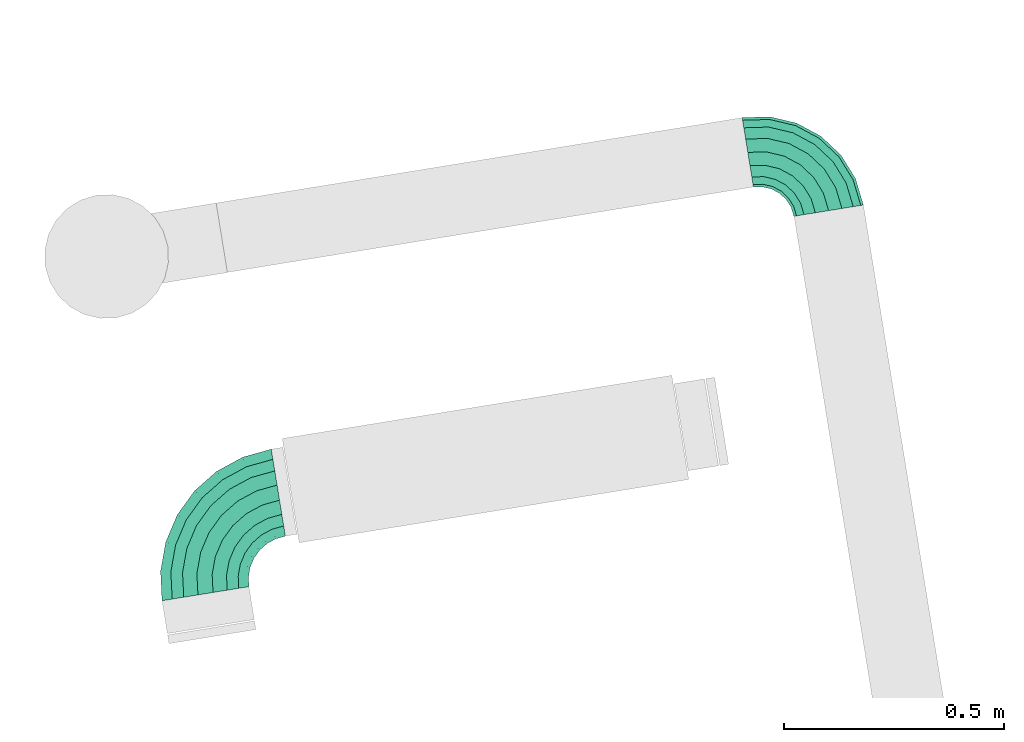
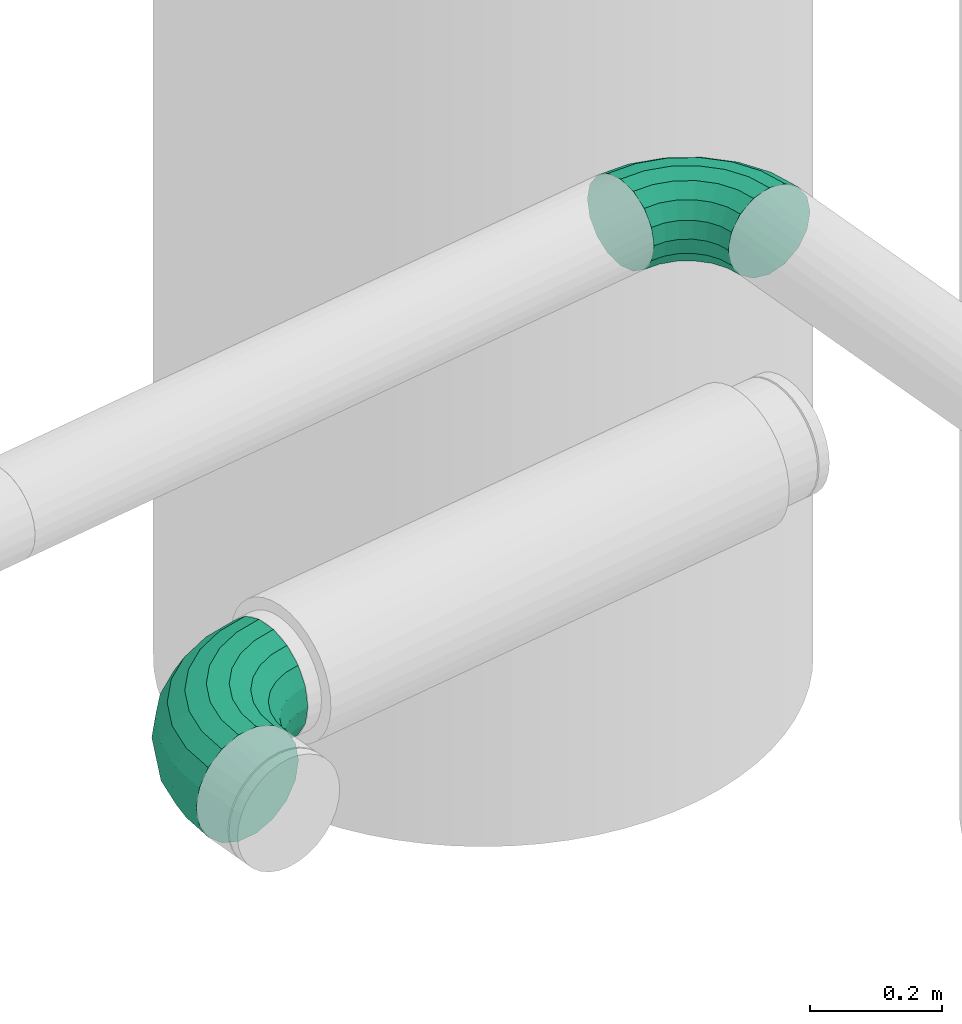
# One storey, part 29 of 39: 2 flow fittings.
"""IFC2X3 building model written with IfcOpenShell, lengths in millimetres."""

from ifc_helpers import new_model, entity, si_unit, converted_unit, derived_unit, direction, frame, origin, origin_with_axes, place, context, subcontext, project, spatial, faceted_brep, source, transform, mapped, material, type_object, element, save


model = new_model("IFC2X3")

# Units and contexts
model_context = context("Model", 3, precision=0.01, world=origin(), true_north=direction((6.12323399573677e-17, 1.0)))
plan_context = context("Plan", 3, precision=1e-05, world=origin_with_axes())
body_context = subcontext(model_context, "Body", "Model", "MODEL_VIEW")
ifc_project = project(units=[converted_unit("PLANEANGLEUNIT", "DEGREE", entity("IfcPositiveLengthMeasure", 0.0174532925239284), si_unit("PLANEANGLEUNIT", "RADIAN"), dimensions=[0, 0, 0, 0, 0, 0, 0]), si_unit("AREAUNIT", "SQUARE_METRE"), si_unit("LENGTHUNIT", "METRE", prefix="MILLI"), si_unit("MASSUNIT", "GRAM", prefix="KILO"), si_unit("POWERUNIT", "WATT"), si_unit("PRESSUREUNIT", "PASCAL", prefix="KILO"), si_unit("FORCEUNIT", "NEWTON", prefix="KILO"), si_unit("ELECTRICVOLTAGEUNIT", "VOLT"), si_unit("ELECTRICCURRENTUNIT", "AMPERE"), si_unit("THERMODYNAMICTEMPERATUREUNIT", "DEGREE_CELSIUS"), si_unit("TIMEUNIT", "SECOND"), si_unit("VOLUMEUNIT", "CUBIC_METRE"), derived_unit("LINEARVELOCITYUNIT", [(si_unit("LENGTHUNIT", "METRE"), 1), (si_unit("TIMEUNIT", "SECOND"), -1)]), derived_unit("VOLUMETRICFLOWRATEUNIT", [(si_unit("VOLUMEUNIT", "CUBIC_METRE"), 1), (si_unit("TIMEUNIT", "SECOND"), -1)]), derived_unit("THERMALTRANSMITTANCEUNIT", [(si_unit("POWERUNIT", "WATT"), 1), (si_unit("THERMODYNAMICTEMPERATUREUNIT", "KELVIN"), -1), (si_unit("AREAUNIT", "SQUARE_METRE"), -1)]), derived_unit("SOUNDPRESSUREUNIT", [(si_unit("PRESSUREUNIT", "PASCAL"), 1)])], contexts=[model_context, plan_context])

# Site, building, storey
site_placement = place(None, frame((-0.00071070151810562, 0.00438415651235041, 0.0), z_axis=(0.0, 0.0, 1.0), x_axis=(-0.160236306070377, 0.987078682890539, 0.0)))
site = spatial("IfcSite", under=ifc_project, at=site_placement, Name="Default", CompositionType="ELEMENT")
building_placement = place(site_placement, origin_with_axes())
building = spatial("IfcBuilding", under=site, at=building_placement, CompositionType="ELEMENT")
storey_placement = place(building_placement, frame((0.0, 0.0, 50999.9999999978), z_axis=(0.0, 0.0, 1.0), x_axis=(1.0, 0.0, 0.0)))
storey = spatial("IfcBuildingStorey", under=building, at=storey_placement, Name="Nivå D", CompositionType="ELEMENT", Elevation=50999.9999999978)

# Flow fittings
ifc_material = material(Name="<Unnamed>")
duct_fitting_type_1 = type_object("IfcDuctFittingType", Name="magicirc_elbow_full_radius_1:magicirc_elbow_full_radius_001", PredefinedType="NOTDEFINED", material=ifc_material)
shared_shape_1 = source(origin(), body_context, "Body", "Brep", [
    faceted_brep([(-97.8834291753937, -71.8221983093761, 0.0), (-99.4595433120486, -65.9400602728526, 30.6146745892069), (-160.0, -73.910362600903, 30.6146745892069), (-160.0, -80.0, 0.0), (-103.947936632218, -49.1891483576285, 56.5685424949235), (-160.0, -56.568542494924, 56.5685424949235), (-110.665291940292, -24.119637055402, 73.9103626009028), (-160.0, -30.6146745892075, 73.9103626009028), (-118.588952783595, 5.45186779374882, 80.0), (-160.0, 0.0, 80.0), (-126.512613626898, 35.0233726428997, 73.910362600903), (-160.0, 30.6146745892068, 73.910362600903), (-133.229968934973, 60.0928839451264, 56.568542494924), (-160.0, 56.5685424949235, 56.568542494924), (-137.718362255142, 76.8437958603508, 30.6146745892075), (-160.0, 73.9103626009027, 30.6146745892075), (-139.294476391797, 82.7259338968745, 0.0), (-160.0, 80.0, 0.0), (-137.718362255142, 76.8437958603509, -30.6146745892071), (-160.0, 73.9103626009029, -30.6146745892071), (-133.229968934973, 60.0928839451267, -56.5685424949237), (-160.0, 56.5685424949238, -56.5685424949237), (-126.512613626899, 35.0233726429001, -73.9103626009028), (-160.0, 30.6146745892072, -73.9103626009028), (-118.588952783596, 5.45186779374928, -80.0), (-160.0, 0.0, -80.0), (-110.665291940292, -24.1196370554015, -73.9103626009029), (-160.0, -30.614674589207, -73.9103626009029), (-103.947936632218, -49.1891483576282, -56.5685424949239), (-160.0, -56.5685424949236, -56.5685424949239), (-99.4595433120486, -65.9400602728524, -30.6146745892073), (-160.0, -73.9103626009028, -30.6146745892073), (-40.0, -47.8460969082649, 0.0), (-43.0448186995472, -42.5723162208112, 30.6146745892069), (-51.7157287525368, -27.5538594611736, 56.5685424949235), (-64.6926627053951, -5.0771505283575, 73.9103626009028), (-80.0, 21.4359353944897, 80.0), (-95.3073372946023, 47.949021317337, 73.910362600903), (-108.284271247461, 70.4257302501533, 56.568542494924), (-116.95518130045, 85.444187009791, 30.6146745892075), (-120.0, 90.717967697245, 0.0), (-116.95518130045, 85.4441870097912, -30.6146745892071), (-108.284271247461, 70.4257302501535, -56.5685424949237), (-95.3073372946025, 47.9490213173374, -73.9103626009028), (-80.0, 21.4359353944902, -80.0), (-64.6926627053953, -5.07715052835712, -73.9103626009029), (-51.7157287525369, -27.5538594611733, -56.5685424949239), (-43.0448186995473, -42.572316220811, -30.6146745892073), (9.70562748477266, -9.70562748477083, 0.0), (5.39960358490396, -5.39960358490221, 30.6146745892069), (-6.86291501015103, 6.86291501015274, 56.5685424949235), (-25.2150710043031, 25.2150710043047, 73.9103626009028), (-46.862915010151, 46.8629150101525, 80.0), (-68.5107590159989, 68.5107590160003, 73.910362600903), (-86.8629150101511, 86.8629150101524, 56.568542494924), (-99.1254336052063, 99.1254336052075, 30.6146745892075), (-103.431457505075, 103.431457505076, 0.0), (-99.1254336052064, 99.1254336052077, -30.6146745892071), (-86.8629150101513, 86.8629150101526, -56.5685424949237), (-68.5107590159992, 68.5107590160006, -73.9103626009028), (-46.8629150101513, 46.8629150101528, -80.0), (-25.2150710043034, 25.215071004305, -73.9103626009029), (-6.86291501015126, 6.86291501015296, -56.5685424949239), (5.39960358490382, -5.39960358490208, -30.6146745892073), (47.8460969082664, 40.0, 0.0), (42.5723162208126, 43.0448186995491, 30.6146745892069), (27.553859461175, 51.7157287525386, 56.5685424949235), (5.07715052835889, 64.6926627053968, 73.9103626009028), (-21.4359353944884, 80.0, 80.0), (-47.9490213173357, 95.3073372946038, 73.910362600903), (-70.4257302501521, 108.284271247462, 56.568542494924), (-85.4441870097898, 116.955181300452, 30.6146745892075), (-90.7179676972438, 120.0, 0.0), (-85.44418700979, 116.955181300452, -30.6146745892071), (-70.4257302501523, 108.284271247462, -56.5685424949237), (-47.9490213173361, 95.307337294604, -73.9103626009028), (-21.4359353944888, 80.0, -80.0), (5.07715052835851, 64.692662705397, -73.9103626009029), (27.5538594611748, 51.7157287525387, -56.5685424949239), (42.5723162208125, 43.0448186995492, -30.6146745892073), (71.8221983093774, 97.8834291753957, 0.0), (65.9400602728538, 99.4595433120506, 30.6146745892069), (49.1891483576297, 103.94793663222, 56.5685424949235), (24.1196370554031, 110.665291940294, 73.9103626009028), (-5.45186779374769, 118.588952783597, 80.0), (-35.0233726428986, 126.5126136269, 73.910362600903), (-60.0928839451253, 133.229968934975, 56.568542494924), (-76.8437958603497, 137.718362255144, 30.6146745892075), (-82.7259338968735, 139.294476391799, 0.0), (-76.8437958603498, 137.718362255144, -30.6146745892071), (-60.0928839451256, 133.229968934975, -56.5685424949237), (-35.023372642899, 126.5126136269, -73.9103626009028), (-5.45186779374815, 118.588952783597, -80.0), (24.1196370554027, 110.665291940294, -73.9103626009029), (49.1891483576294, 103.94793663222, -56.5685424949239), (65.9400602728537, 99.4595433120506, -30.6146745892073), (80.0, 160.0, 0.0), (73.9103626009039, 160.0, 30.6146745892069), (56.5685424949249, 160.0, 56.5685424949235), (30.6146745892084, 160.0, 73.9103626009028), (0.0, 160.0, 80.0), (-30.6146745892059, 160.0, 73.910362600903), (-56.5685424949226, 160.0, 56.568542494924), (-73.9103626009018, 160.0, 30.6146745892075), (-80.0, 160.0, 0.0), (-73.910362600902, 160.0, -30.6146745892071), (-56.5685424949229, 160.0, -56.5685424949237), (-30.6146745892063, 160.0, -73.9103626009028), (0.0, 160.0, -80.0), (30.6146745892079, 160.0, -73.9103626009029), (56.5685424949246, 160.0, -56.5685424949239), (73.9103626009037, 160.0, -30.6146745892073)], [[[0, 1, 2, 3]], [[1, 4, 5, 2]], [[4, 6, 7, 5]], [[6, 8, 9, 7]], [[8, 10, 11, 9]], [[10, 12, 13, 11]], [[12, 14, 15, 13]], [[14, 16, 17, 15]], [[16, 18, 19, 17]], [[18, 20, 21, 19]], [[20, 22, 23, 21]], [[22, 24, 25, 23]], [[24, 26, 27, 25]], [[26, 28, 29, 27]], [[28, 30, 31, 29]], [[30, 0, 3, 31]], [[32, 33, 1, 0]], [[33, 34, 4, 1]], [[34, 35, 6, 4]], [[35, 36, 8, 6]], [[36, 37, 10, 8]], [[37, 38, 12, 10]], [[38, 39, 14, 12]], [[39, 40, 16, 14]], [[40, 41, 18, 16]], [[41, 42, 20, 18]], [[42, 43, 22, 20]], [[43, 44, 24, 22]], [[44, 45, 26, 24]], [[45, 46, 28, 26]], [[46, 47, 30, 28]], [[47, 32, 0, 30]], [[48, 49, 33, 32]], [[49, 50, 34, 33]], [[50, 51, 35, 34]], [[51, 52, 36, 35]], [[52, 53, 37, 36]], [[53, 54, 38, 37]], [[54, 55, 39, 38]], [[55, 56, 40, 39]], [[56, 57, 41, 40]], [[57, 58, 42, 41]], [[58, 59, 43, 42]], [[59, 60, 44, 43]], [[60, 61, 45, 44]], [[61, 62, 46, 45]], [[62, 63, 47, 46]], [[63, 48, 32, 47]], [[64, 65, 49, 48]], [[65, 66, 50, 49]], [[66, 67, 51, 50]], [[67, 68, 52, 51]], [[68, 69, 53, 52]], [[69, 70, 54, 53]], [[70, 71, 55, 54]], [[71, 72, 56, 55]], [[72, 73, 57, 56]], [[73, 74, 58, 57]], [[74, 75, 59, 58]], [[75, 76, 60, 59]], [[76, 77, 61, 60]], [[77, 78, 62, 61]], [[78, 79, 63, 62]], [[79, 64, 48, 63]], [[80, 81, 65, 64]], [[81, 82, 66, 65]], [[82, 83, 67, 66]], [[83, 84, 68, 67]], [[84, 85, 69, 68]], [[85, 86, 70, 69]], [[86, 87, 71, 70]], [[87, 88, 72, 71]], [[88, 89, 73, 72]], [[89, 90, 74, 73]], [[90, 91, 75, 74]], [[91, 92, 76, 75]], [[92, 93, 77, 76]], [[93, 94, 78, 77]], [[94, 95, 79, 78]], [[95, 80, 64, 79]], [[96, 97, 81, 80]], [[97, 98, 82, 81]], [[98, 99, 83, 82]], [[99, 100, 84, 83]], [[100, 101, 85, 84]], [[101, 102, 86, 85]], [[102, 103, 87, 86]], [[103, 104, 88, 87]], [[104, 105, 89, 88]], [[105, 106, 90, 89]], [[106, 107, 91, 90]], [[107, 108, 92, 91]], [[108, 109, 93, 92]], [[109, 110, 94, 93]], [[110, 111, 95, 94]], [[111, 96, 80, 95]], [[3, 2, 5, 7, 9, 11, 13, 15, 17, 19, 21, 23, 25, 27, 29, 31]], [[111, 110, 109, 108, 107, 106, 105, 104, 103, 102, 101, 100, 99, 98, 97, 96]]]),
])
flow_fitting_1_placement = place(storey_placement, frame((776456.97928963, -593994.407161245, 3310.0), z_axis=(0.0, 0.0, 1.0), x_axis=(1.0, 0.0, 0.0)))
element("IfcFlowFitting", 1, at=flow_fitting_1_placement, inside=storey, type_object=duct_fitting_type_1, material=ifc_material, Name="magicirc_elbow_full_radius_1:magicirc_elbow_full_radius_001", ObjectType="magicirc_elbow_full_radius_1:magicirc_elbow_full_radius_001", context=body_context, shape_type="MappedRepresentation", body=[
    mapped(shared_shape_1, transform((0.0, 0.0, 0.0), scale=1.0)),
])
duct_fitting_type_2 = type_object("IfcDuctFittingType", Name="magicirc_elbow_full_radius_1:magicirc_elbow_full_radius_001", PredefinedType="NOTDEFINED", material=ifc_material)
shared_shape_2 = source(origin(), body_context, "Body", "Brep", [
    faceted_brep([(-133.243719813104, -92.4783736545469, 0.0), (-134.585685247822, -86.5988389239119, 34.2020143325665), (-200.0, -93.969262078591, 34.2020143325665), (-200.0, -100.0, 0.0), (-138.449720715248, -69.6693933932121, 64.2787609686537), (-200.0, -76.604444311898, 64.2787609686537), (-144.36976651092, -43.7319780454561, 86.6025403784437), (-200.0, -50.0, 86.6025403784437), (-151.63177774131, -11.9150279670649, 98.4807753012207), (-200.0, -17.3648177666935, 98.4807753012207), (-159.359848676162, 21.9438630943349, 98.4807753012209), (-200.0, 17.3648177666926, 98.4807753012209), (-166.621859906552, 53.7608131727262, 86.6025403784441), (-200.0, 50.0, 86.6025403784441), (-172.541905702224, 79.6982285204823, 64.2787609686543), (-200.0, 76.6044443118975, 64.2787609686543), (-176.40594116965, 96.6276740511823, 34.2020143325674), (-200.0, 93.9692620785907, 34.2020143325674), (-177.747906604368, 102.507208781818, 0.0), (-200.0, 100.0, 0.0), (-176.40594116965, 96.6276740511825, -34.2020143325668), (-200.0, 93.9692620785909, -34.2020143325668), (-172.541905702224, 79.6982285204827, -64.2787609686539), (-200.0, 76.6044443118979, -64.2787609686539), (-166.621859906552, 53.7608131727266, -86.6025403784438), (-200.0, 50.0, -86.6025403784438), (-159.359848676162, 21.9438630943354, -98.4807753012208), (-200.0, 17.3648177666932, -98.4807753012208), (-151.63177774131, -11.9150279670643, -98.4807753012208), (-200.0, -17.3648177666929, -98.4807753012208), (-144.36976651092, -43.7319780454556, -86.6025403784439), (-200.0, -50.0, -86.6025403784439), (-138.449720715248, -69.6693933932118, -64.2787609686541), (-200.0, -76.6044443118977, -64.2787609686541), (-134.585685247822, -86.5988389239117, -34.2020143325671), (-200.0, -93.9692620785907, -34.2020143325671), (-69.8348782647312, -70.2906603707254, 0.0), (-72.4515173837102, -64.8571532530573, 34.2020143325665), (-79.985829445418, -49.2119930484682, 64.2787609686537), (-91.5290652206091, -25.2422169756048, 86.6025403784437), (-105.688940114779, 4.16106621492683, 98.4807753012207), (-120.757564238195, 35.4513866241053, 98.4807753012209), (-134.917439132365, 64.854669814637, 86.6025403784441), (-146.460674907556, 88.8244458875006, 64.2787609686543), (-153.994986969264, 104.46960609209, 34.2020143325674), (-156.611626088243, 109.903113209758, 0.0), (-153.994986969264, 104.46960609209, -34.2020143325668), (-146.460674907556, 88.8244458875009, -64.2787609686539), (-134.917439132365, 64.8546698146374, -86.6025403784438), (-120.757564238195, 35.4513866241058, -98.4807753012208), (-105.688940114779, 4.16106621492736, -98.4807753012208), (-91.5290652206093, -25.2422169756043, -86.6025403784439), (-79.9858294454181, -49.2119930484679, -64.2787609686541), (-72.4515173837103, -64.8571532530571, -34.2020143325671), (-12.9530594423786, -34.5494447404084, 0.0), (-16.7131630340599, -29.834423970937, 34.2020143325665), (-27.5399498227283, -16.2580627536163, 64.2787609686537), (-44.1275495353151, 4.54212938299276, 86.6025403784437), (-64.4752528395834, 30.0573422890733, 98.4807753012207), (-86.1288264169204, 57.2100647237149, 98.4807753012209), (-106.476529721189, 82.7252776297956, 86.6025403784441), (-123.064129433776, 103.525469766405, 64.2787609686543), (-133.890916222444, 117.101830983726, 34.2020143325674), (-137.651019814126, 121.816851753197, 0.0), (-133.890916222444, 117.101830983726, -34.2020143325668), (-123.064129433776, 103.525469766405, -64.2787609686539), (-106.476529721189, 82.7252776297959, -86.6025403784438), (-86.1288264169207, 57.2100647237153, -98.4807753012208), (-64.4752528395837, 30.0573422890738, -98.4807753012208), (-44.1275495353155, 4.54212938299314, -86.6025403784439), (-27.5399498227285, -16.2580627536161, -64.2787609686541), (-16.71316303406, -29.8344239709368, -34.2020143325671), (34.5494447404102, 12.9530594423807, 0.0), (29.8344239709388, 16.7131630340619, 34.2020143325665), (16.2580627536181, 27.5399498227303, 64.2787609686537), (-4.54212938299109, 44.127549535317, 86.6025403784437), (-30.0573422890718, 64.4752528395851, 98.4807753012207), (-57.2100647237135, 86.128826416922, 98.4807753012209), (-82.7252776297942, 106.47652972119, 86.6025403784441), (-103.525469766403, 123.064129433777, 64.2787609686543), (-117.101830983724, 133.890916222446, 34.2020143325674), (-121.816851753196, 137.651019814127, 0.0), (-117.101830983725, 133.890916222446, -34.2020143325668), (-103.525469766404, 123.064129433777, -64.2787609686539), (-82.7252776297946, 106.47652972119, -86.6025403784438), (-57.2100647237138, 86.1288264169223, -98.4807753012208), (-30.0573422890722, 64.4752528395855, -98.4807753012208), (-4.54212938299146, 44.1275495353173, -86.6025403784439), (16.2580627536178, 27.5399498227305, -64.2787609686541), (29.8344239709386, 16.7131630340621, -34.2020143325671), (70.2906603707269, 69.8348782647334, 0.0), (64.8571532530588, 72.4515173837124, 34.2020143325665), (49.2119930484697, 79.9858294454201, 64.2787609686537), (25.2422169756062, 91.5290652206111, 86.6025403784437), (-4.16106621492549, 105.688940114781, 98.4807753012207), (-35.4513866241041, 120.757564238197, 98.4807753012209), (-64.8546698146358, 134.917439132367, 86.6025403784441), (-88.8244458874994, 146.460674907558, 64.2787609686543), (-104.469606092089, 153.994986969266, 34.2020143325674), (-109.903113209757, 156.611626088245, 0.0), (-104.469606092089, 153.994986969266, -34.2020143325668), (-88.8244458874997, 146.460674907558, -64.2787609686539), (-64.8546698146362, 134.917439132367, -86.6025403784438), (-35.4513866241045, 120.757564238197, -98.4807753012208), (-4.16106621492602, 105.688940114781, -98.4807753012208), (25.2422169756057, 91.5290652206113, -86.6025403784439), (49.2119930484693, 79.9858294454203, -64.2787609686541), (64.8571532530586, 72.4515173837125, -34.2020143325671), (92.4783736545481, 133.243719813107, 0.0), (86.598838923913, 134.585685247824, 34.2020143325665), (69.6693933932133, 138.44972071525, 64.2787609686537), (43.7319780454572, 144.369766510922, 86.6025403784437), (11.915027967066, 151.631777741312, 98.4807753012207), (-21.9438630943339, 159.359848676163, 98.4807753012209), (-53.7608131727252, 166.621859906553, 86.6025403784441), (-79.6982285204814, 172.541905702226, 64.2787609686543), (-96.6276740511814, 176.405941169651, 34.2020143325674), (-102.507208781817, 177.747906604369, 0.0), (-96.6276740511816, 176.405941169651, -34.2020143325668), (-79.6982285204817, 172.541905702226, -64.2787609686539), (-53.7608131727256, 166.621859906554, -86.6025403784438), (-21.9438630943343, 159.359848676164, -98.4807753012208), (11.9150279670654, 151.631777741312, -98.4807753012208), (43.7319780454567, 144.369766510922, -86.6025403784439), (69.6693933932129, 138.44972071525, -64.2787609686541), (86.5988389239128, 134.585685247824, -34.2020143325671), (100.0, 200.0, 0.0), (93.9692620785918, 200.0, 34.2020143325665), (76.6044443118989, 200.0, 64.2787609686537), (50.0, 200.0, 86.6025403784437), (17.3648177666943, 200.0, 98.4807753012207), (-17.3648177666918, 200.0, 98.4807753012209), (-50.0, 200.0, 86.6025403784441), (-76.6044443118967, 200.0, 64.2787609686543), (-93.9692620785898, 200.0, 34.2020143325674), (-100.0, 200.0, 0.0), (-93.96926207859, 200.0, -34.2020143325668), (-76.604444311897, 200.0, -64.2787609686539), (-50.0, 200.0, -86.6025403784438), (-17.3648177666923, 200.0, -98.4807753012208), (17.3648177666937, 200.0, -98.4807753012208), (50.0, 200.0, -86.6025403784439), (76.6044443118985, 200.0, -64.2787609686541), (93.9692620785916, 200.0, -34.2020143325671)], [[[0, 1, 2, 3]], [[1, 4, 5, 2]], [[4, 6, 7, 5]], [[6, 8, 9, 7]], [[8, 10, 11, 9]], [[10, 12, 13, 11]], [[12, 14, 15, 13]], [[14, 16, 17, 15]], [[16, 18, 19, 17]], [[18, 20, 21, 19]], [[20, 22, 23, 21]], [[22, 24, 25, 23]], [[24, 26, 27, 25]], [[26, 28, 29, 27]], [[28, 30, 31, 29]], [[30, 32, 33, 31]], [[32, 34, 35, 33]], [[34, 0, 3, 35]], [[36, 37, 1, 0]], [[37, 38, 4, 1]], [[38, 39, 6, 4]], [[39, 40, 8, 6]], [[40, 41, 10, 8]], [[41, 42, 12, 10]], [[42, 43, 14, 12]], [[43, 44, 16, 14]], [[44, 45, 18, 16]], [[45, 46, 20, 18]], [[46, 47, 22, 20]], [[47, 48, 24, 22]], [[48, 49, 26, 24]], [[49, 50, 28, 26]], [[50, 51, 30, 28]], [[51, 52, 32, 30]], [[52, 53, 34, 32]], [[53, 36, 0, 34]], [[54, 55, 37, 36]], [[55, 56, 38, 37]], [[56, 57, 39, 38]], [[57, 58, 40, 39]], [[58, 59, 41, 40]], [[59, 60, 42, 41]], [[60, 61, 43, 42]], [[61, 62, 44, 43]], [[62, 63, 45, 44]], [[63, 64, 46, 45]], [[64, 65, 47, 46]], [[65, 66, 48, 47]], [[66, 67, 49, 48]], [[67, 68, 50, 49]], [[68, 69, 51, 50]], [[69, 70, 52, 51]], [[70, 71, 53, 52]], [[71, 54, 36, 53]], [[72, 73, 55, 54]], [[73, 74, 56, 55]], [[74, 75, 57, 56]], [[75, 76, 58, 57]], [[76, 77, 59, 58]], [[77, 78, 60, 59]], [[78, 79, 61, 60]], [[79, 80, 62, 61]], [[80, 81, 63, 62]], [[81, 82, 64, 63]], [[82, 83, 65, 64]], [[83, 84, 66, 65]], [[84, 85, 67, 66]], [[85, 86, 68, 67]], [[86, 87, 69, 68]], [[87, 88, 70, 69]], [[88, 89, 71, 70]], [[89, 72, 54, 71]], [[90, 91, 73, 72]], [[91, 92, 74, 73]], [[92, 93, 75, 74]], [[93, 94, 76, 75]], [[94, 95, 77, 76]], [[95, 96, 78, 77]], [[96, 97, 79, 78]], [[97, 98, 80, 79]], [[98, 99, 81, 80]], [[99, 100, 82, 81]], [[100, 101, 83, 82]], [[101, 102, 84, 83]], [[102, 103, 85, 84]], [[103, 104, 86, 85]], [[104, 105, 87, 86]], [[105, 106, 88, 87]], [[106, 107, 89, 88]], [[107, 90, 72, 89]], [[108, 109, 91, 90]], [[109, 110, 92, 91]], [[110, 111, 93, 92]], [[111, 112, 94, 93]], [[112, 113, 95, 94]], [[113, 114, 96, 95]], [[114, 115, 97, 96]], [[115, 116, 98, 97]], [[116, 117, 99, 98]], [[117, 118, 100, 99]], [[118, 119, 101, 100]], [[119, 120, 102, 101]], [[120, 121, 103, 102]], [[121, 122, 104, 103]], [[122, 123, 105, 104]], [[123, 124, 106, 105]], [[124, 125, 107, 106]], [[125, 108, 90, 107]], [[126, 127, 109, 108]], [[127, 128, 110, 109]], [[128, 129, 111, 110]], [[129, 130, 112, 111]], [[130, 131, 113, 112]], [[131, 132, 114, 113]], [[132, 133, 115, 114]], [[133, 134, 116, 115]], [[134, 135, 117, 116]], [[135, 136, 118, 117]], [[136, 137, 119, 118]], [[137, 138, 120, 119]], [[138, 139, 121, 120]], [[139, 140, 122, 121]], [[140, 141, 123, 122]], [[141, 142, 124, 123]], [[142, 143, 125, 124]], [[143, 126, 108, 125]], [[3, 2, 5, 7, 9, 11, 13, 15, 17, 19, 21, 23, 25, 27, 29, 31, 33, 35]], [[143, 142, 141, 140, 139, 138, 137, 136, 135, 134, 133, 132, 131, 130, 129, 128, 127, 126]]]),
])
flow_fitting_2_placement = place(storey_placement, frame((775865.219644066, -592458.424054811, 3310.0), z_axis=(0.0, 0.0, 1.0), x_axis=(0.0, 1.0, 0.0)))
element("IfcFlowFitting", 2, at=flow_fitting_2_placement, inside=storey, type_object=duct_fitting_type_2, material=ifc_material, Name="magicirc_elbow_full_radius_1:magicirc_elbow_full_radius_001", ObjectType="magicirc_elbow_full_radius_1:magicirc_elbow_full_radius_001", context=body_context, shape_type="MappedRepresentation", body=[
    mapped(shared_shape_2, transform((0.0, 0.0, 0.0), scale=1.0)),
])

save(model, "model.ifc")
